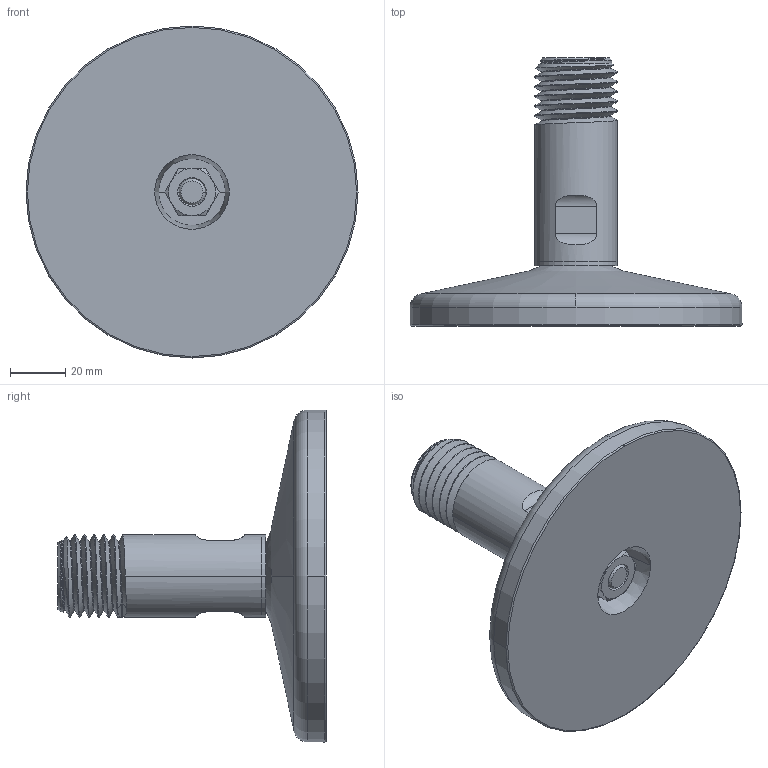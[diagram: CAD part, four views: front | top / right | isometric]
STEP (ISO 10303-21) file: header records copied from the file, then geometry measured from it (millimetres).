
FILE_DESCRIPTION((''),'1');
FILE_NAME('LALAM_M30.step','2024-03-04T09:06:19',(''),(''),'','','');
FILE_SCHEMA(('AUTOMOTIVE_DESIGN { 1 0 10303 214 1 1 1 1 }'));
Products named in the file (6): LALAM part 01; LALAM part 03; LALAM part 05; LALAM part 06; LALAM nut 01
Assembly tree (5 placements, depth 3):
  LALAM part 01
    LALAM part 01
      LALAM part 03
      LALAM part 05
      LALAM part 06
      LALAM nut 01
Bounding box: 120 x 97 x 120 mm (x, y, z)
Volume: 213521.7 mm3; surface area: 40058.4 mm2
Topology: 4 solids, 4 shells, 103 faces, 246 edges, 157 vertices
Faces by surface type: cylinder 36, cone 30, plane 20, torus 12, bspline 3, sphere 2
Entity records: 15973 total; most frequent: CARTESIAN_POINT 13433, DIRECTION 513, ORIENTED_EDGE 492, EDGE_CURVE 246, AXIS2_PLACEMENT_3D 224, VERTEX_POINT 157, EDGE_LOOP 115, CIRCLE 115
